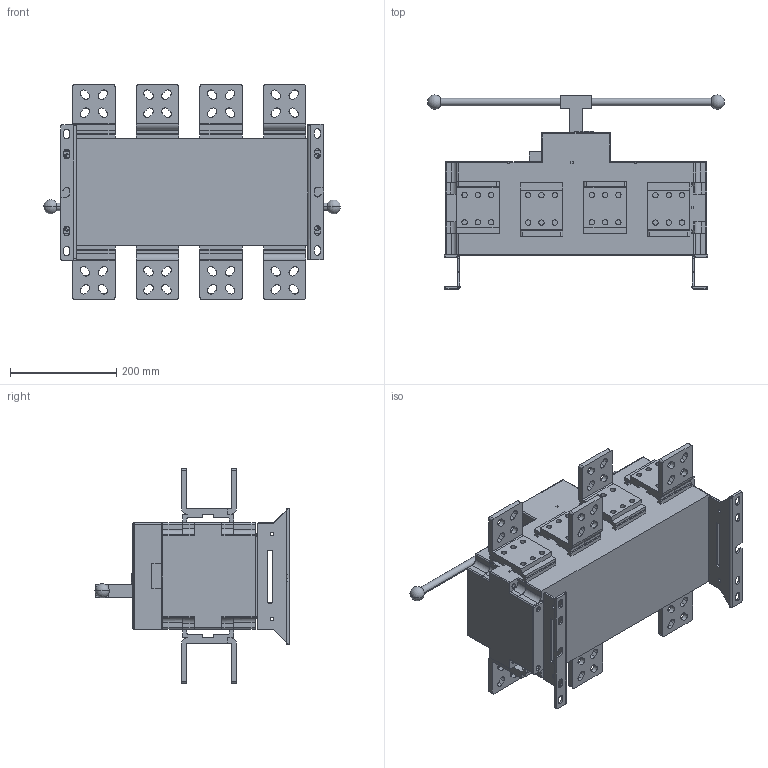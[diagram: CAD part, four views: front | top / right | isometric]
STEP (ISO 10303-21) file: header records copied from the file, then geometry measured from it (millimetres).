
FILE_DESCRIPTION((''),'2;1');
FILE_NAME('GL-2000-2500-4P-2026_SW0001','2026-06-03T13:52:14',('panxiangxiang'),(''),'CREO PARAMETRIC BY PTC INC, 2020354','CREO PARAMETRIC BY PTC INC, 2020354','');
FILE_SCHEMA(('AUTOMOTIVE_DESIGN { 1 0 10303 214 1 1 1 1 }'));
Length unit declared in the file: millimetre
Products named in the file (1): GL-2000-2500-4P-2026_SW0001
Bounding box: 560.09 x 366 x 405 mm (x, y, z)
Volume: 19680495.8 mm3; surface area: 1013848.4 mm2
Topology: 1 solids, 1 shells, 1551 faces, 4281 edges, 2820 vertices
Faces by surface type: plane 973, cylinder 494, bspline 42, sphere 16, cone 12, extrusion 10, torus 4
Entity records: 52329 total; most frequent: CARTESIAN_POINT 11643, ORIENTED_EDGE 8554, DIRECTION 8325, EDGE_CURVE 4277, VECTOR 2881, LINE 2871, VERTEX_POINT 2820, AXIS2_PLACEMENT_3D 2722
